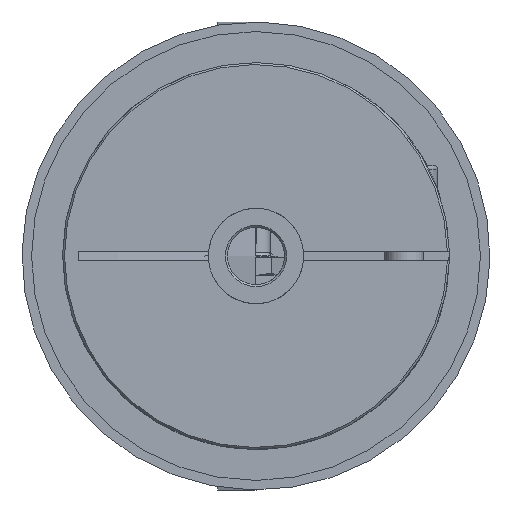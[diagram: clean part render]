
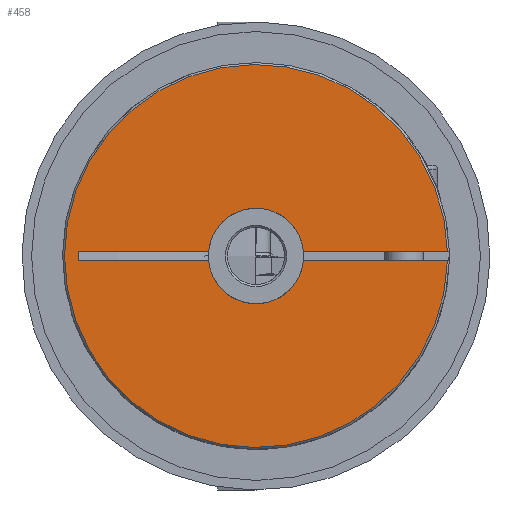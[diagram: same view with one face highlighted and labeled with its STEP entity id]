
A CAD part, left-side view. The second image highlights one B-rep face of the part: STEP entity #458.
In plain terms, the highlighted planar face has unit normal (-1, 0, 0).
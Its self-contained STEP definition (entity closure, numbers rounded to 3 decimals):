
#458 = ADVANCED_FACE( 'NONE', ( #891 ), #892, .F. );
#891 = FACE_OUTER_BOUND( '', #1439, .T. );
#892 = PLANE( '', #1440 );
#1439 = EDGE_LOOP( '', ( #2403, #2404, #2405, #2406, #2407, #2408, #2409, #2410 ) );
#1440 = AXIS2_PLACEMENT_3D( '', #2411, #2412, #2413 );
#2403 = ORIENTED_EDGE( '', *, *, #3214, .T. );
#2404 = ORIENTED_EDGE( '', *, *, #3196, .T. );
#2405 = ORIENTED_EDGE( '', *, *, #3198, .T. );
#2406 = ORIENTED_EDGE( '', *, *, #3213, .T. );
#2407 = ORIENTED_EDGE( '', *, *, #3180, .F. );
#2408 = ORIENTED_EDGE( '', *, *, #3191, .T. );
#2409 = ORIENTED_EDGE( '', *, *, #3215, .F. );
#2410 = ORIENTED_EDGE( '', *, *, #3188, .T. );
#2411 = CARTESIAN_POINT( '', ( 0., 3., 0. ) );
#2412 = DIRECTION( '', ( 1., 0., 0. ) );
#2413 = DIRECTION( '', ( 0., 1., 0. ) );
#3180 = EDGE_CURVE( '', #3607, #3610, #3611, .F. );
#3188 = EDGE_CURVE( 'NONE', #3620, #3624, #3626, .T. );
#3191 = EDGE_CURVE( '', #3607, #3629, #3631, .T. );
#3196 = EDGE_CURVE( '', #3640, #3638, #3641, .T. );
#3198 = EDGE_CURVE( '', #3638, #3643, #3644, .T. );
#3213 = EDGE_CURVE( 'NONE', #3643, #3610, #3668, .F. );
#3214 = EDGE_CURVE( 'NONE', #3624, #3640, #3669, .T. );
#3215 = EDGE_CURVE( 'NONE', #3620, #3629, #3670, .F. );
#3607 = VERTEX_POINT( '', #4245 );
#3610 = VERTEX_POINT( 'NONE', #4249 );
#3611 = LINE( '', #4250, #4251 );
#3620 = VERTEX_POINT( 'NONE', #4265 );
#3624 = VERTEX_POINT( 'NONE', #4272 );
#3626 = LINE( '', #4274, #4275 );
#3629 = VERTEX_POINT( '', #4278 );
#3631 = CIRCLE( '', #4281, 5. );
#3638 = VERTEX_POINT( '', #4289 );
#3640 = VERTEX_POINT( '', #4292 );
#3641 = CIRCLE( '', #4293, 5. );
#3643 = VERTEX_POINT( 'NONE', #4296 );
#3644 = LINE( '', #4297, #4298 );
#3668 = CIRCLE( '', #4456, 20.05 );
#3669 = LINE( '', #4457, #4458 );
#3670 = LINE( '', #4459, #4460 );
#4245 = CARTESIAN_POINT( '', ( 0., -4.975, -0.5 ) );
#4249 = CARTESIAN_POINT( '', ( 0., -20.044, -0.5 ) );
#4250 = CARTESIAN_POINT( '', ( 0., -3.5, -0.5 ) );
#4251 = VECTOR( '', #5007, 1000. );
#4265 = CARTESIAN_POINT( '', ( 0., 18.545, -0.5 ) );
#4272 = CARTESIAN_POINT( '', ( 0., 18.545, 0.5 ) );
#4274 = CARTESIAN_POINT( '', ( 0., 18.545, -0.5 ) );
#4275 = VECTOR( '', #5019, 1000. );
#4278 = CARTESIAN_POINT( '', ( 0., 4.975, -0.5 ) );
#4281 = AXIS2_PLACEMENT_3D( '', #5024, #5025, #5026 );
#4289 = CARTESIAN_POINT( '', ( 0., -4.975, 0.5 ) );
#4292 = CARTESIAN_POINT( '', ( 0., 4.975, 0.5 ) );
#4293 = AXIS2_PLACEMENT_3D( '', #5035, #5036, #5037 );
#4296 = CARTESIAN_POINT( '', ( 0., -20.044, 0.5 ) );
#4297 = CARTESIAN_POINT( '', ( 0., 3., 0.5 ) );
#4298 = VECTOR( '', #5039, 1000. );
#4456 = AXIS2_PLACEMENT_3D( '', #5067, #5068, #5069 );
#4457 = CARTESIAN_POINT( '', ( 0., 3., 0.5 ) );
#4458 = VECTOR( '', #5070, 1000. );
#4459 = CARTESIAN_POINT( '', ( 0., -3.5, -0.5 ) );
#4460 = VECTOR( '', #5071, 1000. );
#5007 = DIRECTION( '', ( 0., 1., 0. ) );
#5019 = DIRECTION( '', ( 0., 0., 1. ) );
#5024 = CARTESIAN_POINT( '', ( 0., 0., 0. ) );
#5025 = DIRECTION( '', ( 1., 0., 0. ) );
#5026 = DIRECTION( '', ( 0., 0., -1. ) );
#5035 = CARTESIAN_POINT( '', ( 0., 0., 0. ) );
#5036 = DIRECTION( '', ( 1., 0., 0. ) );
#5037 = DIRECTION( '', ( 0., 0., -1. ) );
#5039 = DIRECTION( '', ( 0., -1., 0. ) );
#5067 = CARTESIAN_POINT( '', ( 0., 0., 0. ) );
#5068 = DIRECTION( '', ( 1., 0., 0. ) );
#5069 = DIRECTION( '', ( 0., 0., -1. ) );
#5070 = DIRECTION( '', ( 0., -1., 0. ) );
#5071 = DIRECTION( '', ( 0., 1., 0. ) );
